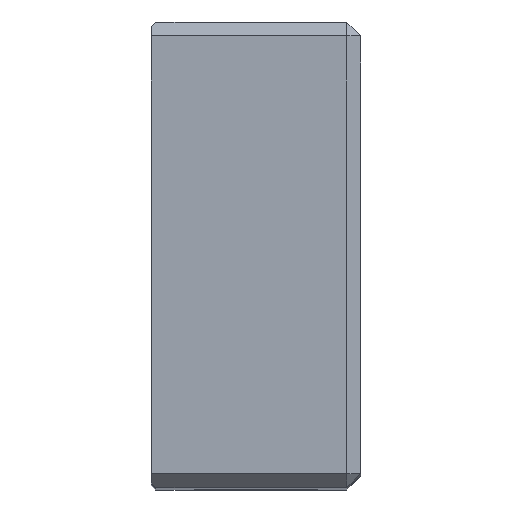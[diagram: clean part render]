
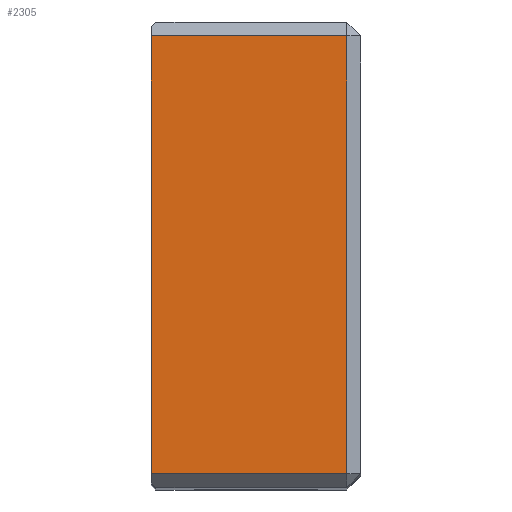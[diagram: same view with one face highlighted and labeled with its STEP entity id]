
A CAD part, top view. The second image highlights one B-rep face of the part: STEP entity #2305.
In plain terms, the highlighted planar face has unit normal (0, 0, 1).
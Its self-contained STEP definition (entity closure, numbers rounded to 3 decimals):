
#267=VERTEX_POINT(' ',#268);
#268=CARTESIAN_POINT('',(-3.,-47.,0.));
#269=VERTEX_POINT(' ',#270);
#270=CARTESIAN_POINT('',(-3.,47.,0.));
#271=VERTEX_POINT(' ',#272);
#272=CARTESIAN_POINT('',(-45.,47.,0.));
#273=VERTEX_POINT(' ',#274);
#274=CARTESIAN_POINT('',(-45.,-47.,0.));
#1112=LINE('',#1113,#1114);
#1113=CARTESIAN_POINT('',(-3.,63.971,0.));
#1114=VECTOR('',#1115,1.);
#1115=DIRECTION('',(0.,-1.,0.));
#1116=EDGE_CURVE(' ',#269,#267,#1112,.T.);
#1117=LINE('',#1118,#1119);
#1118=CARTESIAN_POINT('',(-61.971,47.,0.));
#1119=VECTOR('',#1120,1.);
#1120=DIRECTION('',(1.,0.,0.));
#1121=EDGE_CURVE(' ',#271,#269,#1117,.T.);
#1122=LINE('',#1123,#1124);
#1123=CARTESIAN_POINT('',(-45.,50.12,0.));
#1124=VECTOR('',#1125,1.);
#1125=DIRECTION('',(0.,-1.,0.));
#1126=EDGE_CURVE(' ',#271,#273,#1122,.T.);
#1127=LINE('',#1128,#1129);
#1128=CARTESIAN_POINT('',(13.971,-47.,0.));
#1129=VECTOR('',#1130,1.);
#1130=DIRECTION('',(-1.,0.,0.));
#1131=EDGE_CURVE(' ',#267,#273,#1127,.T.);
#2294=ORIENTED_EDGE('',*,*,#1116,.F.);
#2295=ORIENTED_EDGE('',*,*,#1121,.F.);
#2296=ORIENTED_EDGE('',*,*,#1126,.T.);
#2297=ORIENTED_EDGE('',*,*,#1131,.F.);
#2298=EDGE_LOOP('',(#2294,#2295,#2296,#2297));
#2299=FACE_OUTER_BOUND('',#2298,.T.);
#2300=PLANE('',#2301);
#2301=AXIS2_PLACEMENT_3D('',#2302,#2303,#2304);
#2302=CARTESIAN_POINT('',(0.,50.,0.));
#2303=DIRECTION('',(0.,0.,1.));
#2304=DIRECTION('',(0.,-1.,0.));
#2305=ADVANCED_FACE('',(#2299),#2300,.T.);
